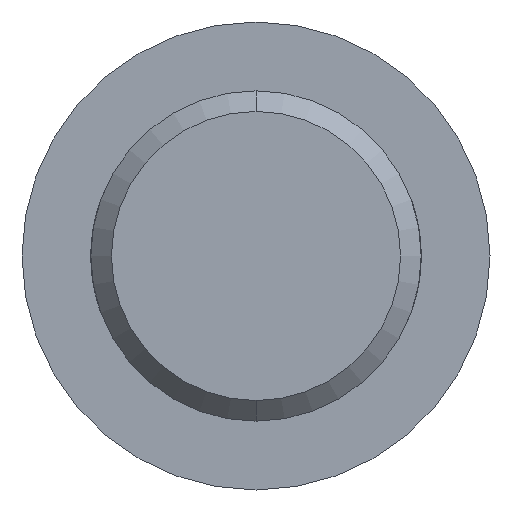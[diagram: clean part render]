
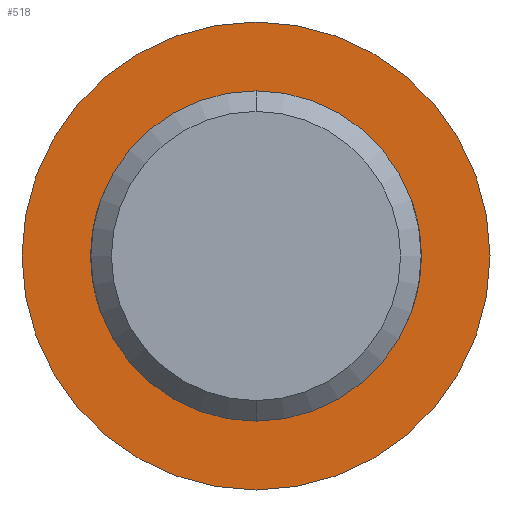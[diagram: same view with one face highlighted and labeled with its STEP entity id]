
A CAD part, front view. The second image highlights one B-rep face of the part: STEP entity #518.
In plain terms, the highlighted planar face has unit normal (0, -1, 0).
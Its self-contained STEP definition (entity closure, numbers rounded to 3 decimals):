
#3 = AXIS2_PLACEMENT_3D ( 'NONE', #307, #24, #187 ) ;
#4 = PLANE ( 'NONE',  #486 ) ;
#16 = DIRECTION ( 'NONE',  ( 0., 0., 1. ) ) ;
#24 = DIRECTION ( 'NONE',  ( 0., -1., 0. ) ) ;
#27 = CARTESIAN_POINT ( 'NONE',  ( 0., 0., 8.5 ) ) ;
#30 = ORIENTED_EDGE ( 'NONE', *, *, #170, .F. ) ;
#43 = DIRECTION ( 'NONE',  ( 0., 0., 1. ) ) ;
#45 = AXIS2_PLACEMENT_3D ( 'NONE', #302, #478, #16 ) ;
#65 = EDGE_LOOP ( 'NONE', ( #380, #30 ) ) ;
#78 = CARTESIAN_POINT ( 'NONE',  ( 0., 0., 0. ) ) ;
#81 = CIRCLE ( 'NONE', #3, 6. ) ;
#101 = DIRECTION ( 'NONE',  ( 0., 1., 0. ) ) ;
#112 = EDGE_CURVE ( 'NONE', #162, #149, #163, .T. ) ;
#126 = CARTESIAN_POINT ( 'NONE',  ( 0., 0., 6. ) ) ;
#129 = CARTESIAN_POINT ( 'NONE',  ( 0., 0., 0. ) ) ;
#147 = CARTESIAN_POINT ( 'NONE',  ( 0., 0., -8.5 ) ) ;
#149 = VERTEX_POINT ( 'NONE', #147 ) ;
#162 = VERTEX_POINT ( 'NONE', #27 ) ;
#163 = CIRCLE ( 'NONE', #45, 8.5 ) ;
#166 = CARTESIAN_POINT ( 'NONE',  ( 0., 0., 0. ) ) ;
#170 = EDGE_CURVE ( 'NONE', #204, #457, #81, .T. ) ;
#173 = CIRCLE ( 'NONE', #245, 8.5 ) ;
#187 = DIRECTION ( 'NONE',  ( 0., 0., -1. ) ) ;
#204 = VERTEX_POINT ( 'NONE', #451 ) ;
#245 = AXIS2_PLACEMENT_3D ( 'NONE', #166, #425, #43 ) ;
#254 = FACE_OUTER_BOUND ( 'NONE', #419, .T. ) ;
#259 = CIRCLE ( 'NONE', #392, 6. ) ;
#260 = FACE_BOUND ( 'NONE', #65, .T. ) ;
#264 = EDGE_CURVE ( 'NONE', #457, #204, #259, .T. ) ;
#274 = DIRECTION ( 'NONE',  ( 0., 0., -1. ) ) ;
#284 = ORIENTED_EDGE ( 'NONE', *, *, #399, .F. ) ;
#302 = CARTESIAN_POINT ( 'NONE',  ( 0., 0., 0. ) ) ;
#307 = CARTESIAN_POINT ( 'NONE',  ( 0., 0., 0. ) ) ;
#380 = ORIENTED_EDGE ( 'NONE', *, *, #264, .F. ) ;
#392 = AXIS2_PLACEMENT_3D ( 'NONE', #78, #416, #274 ) ;
#399 = EDGE_CURVE ( 'NONE', #149, #162, #173, .T. ) ;
#416 = DIRECTION ( 'NONE',  ( 0., -1., 0. ) ) ;
#419 = EDGE_LOOP ( 'NONE', ( #284, #455 ) ) ;
#425 = DIRECTION ( 'NONE',  ( 0., 1., 0. ) ) ;
#451 = CARTESIAN_POINT ( 'NONE',  ( 0., 0., -6. ) ) ;
#455 = ORIENTED_EDGE ( 'NONE', *, *, #112, .F. ) ;
#457 = VERTEX_POINT ( 'NONE', #126 ) ;
#468 = DIRECTION ( 'NONE',  ( 0., 0., 1. ) ) ;
#478 = DIRECTION ( 'NONE',  ( 0., 1., 0. ) ) ;
#486 = AXIS2_PLACEMENT_3D ( 'NONE', #129, #101, #468 ) ;
#518 = ADVANCED_FACE ( 'NONE', ( #260, #254 ), #4, .F. ) ;
